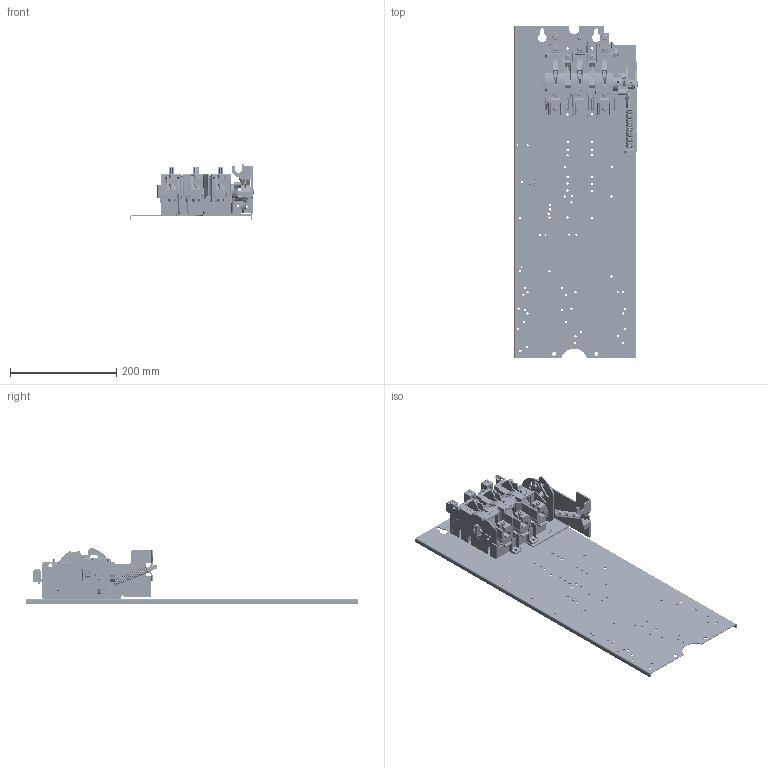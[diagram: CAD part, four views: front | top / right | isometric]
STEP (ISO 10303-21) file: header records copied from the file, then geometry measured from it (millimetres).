
FILE_DESCRIPTION((''),'2;1');
FILE_NAME('10007490214_ASM','2023-07-18T15:36:05',('LEQuenti'),('Rockwell Automation'),'CREO PARAMETRIC BY PTC INC, 2020281','CREO PARAMETRIC BY PTC INC, 2020281','');
FILE_SCHEMA(('CONFIG_CONTROL_DESIGN'));
Length unit declared in the file: inch
Products named in the file (61): 40406-060; 10000614520; 10000685578; 10000637617; 10000636936_AF6; 10000681640_AF5; 10001415906; 10000648108_AF1_ASM; 10000594862; 10000680904; 10000688289_AF0_ASM; 10000636936_AF7; 10000681640_AF6; 10000648108_AF2_ASM; 10000688289_AF1_ASM; 10000636936_AF8; 10000681640_AF7; 10000648108_AF3_ASM; 10000688289_AF2_ASM; 10001097290; 10000688327_ASM; 10000397772; 10000685581; 10000798020; 10000772096; 10000772095; 10000802374_ASM; 10000812410_AF0; 10000812410_AF1; 10000812410_AF2; 10001487840; 10000086643; 10000685579_ASM; 10000653616; 10001439615; 10001285725_ASM; 10000676834; 10000375003_AF0; 10000680853_ASM; 10000495007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
Assembly tree (96 placements, depth 9):
  10007490214_ASM
    40406-060
    10001235193_ASM
      10000690309_ASM
        10001285725_ASM
          10000685579_ASM
            10000688327_ASM
              10000614520
              10000685578  x3
              10000637617  x3
              10000688289_AF0_ASM
                10000648108_AF1_ASM
                  10000636936_AF6
                  10000681640_AF5
                  10001415906
                10000594862
                10000680904
              10000688289_AF1_ASM
                10000648108_AF2_ASM
                  10000636936_AF7
                  10000681640_AF6
                  10001415906
                10000594862
                10000680904
              10000688289_AF2_ASM
                10000648108_AF3_ASM
                  10000636936_AF8
                  10000681640_AF7
                  10001415906
                10000594862
                10000680904
              10001097290  x6
            10000397772
            10000685581  x2
            10000802374_ASM
              10000798020
              10000772096  x3
              10000772095  x3
            10000812410_AF0
            10000812410_AF1
            10000812410_AF2
            10001487840
            10000086643
          10000653616  x3
          10001439615  x3
        10000680854_ASM
          10000680853_ASM
            10000676834
            10000375003_AF0
          10000495007
          10000714167_ASM
            10000472989_ASM
              10000415089
              10000472990
            10000714168
            M-1243
            10000686654
          X-342305_ASM
            B-36120
            B-36119
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Bounding box: 232.81 x 623.82 x 105.1 mm (x, y, z)
Volume: 822065.9 mm3; surface area: 722749.7 mm2
Topology: 79 solids, 88 shells, 9352 faces, 23866 edges, 14809 vertices
Faces by surface type: plane 4850, cylinder 2683, bspline 765, sphere 406, cone 360, torus 266, extrusion 16, revolution 6
Entity records: 283016 total; most frequent: CARTESIAN_POINT 97783, ORIENTED_EDGE 40110, DIRECTION 35480, EDGE_CURVE 20061, VECTOR 13408, LINE 13392, VERTEX_POINT 12566, AXIS2_PLACEMENT_3D 11035
